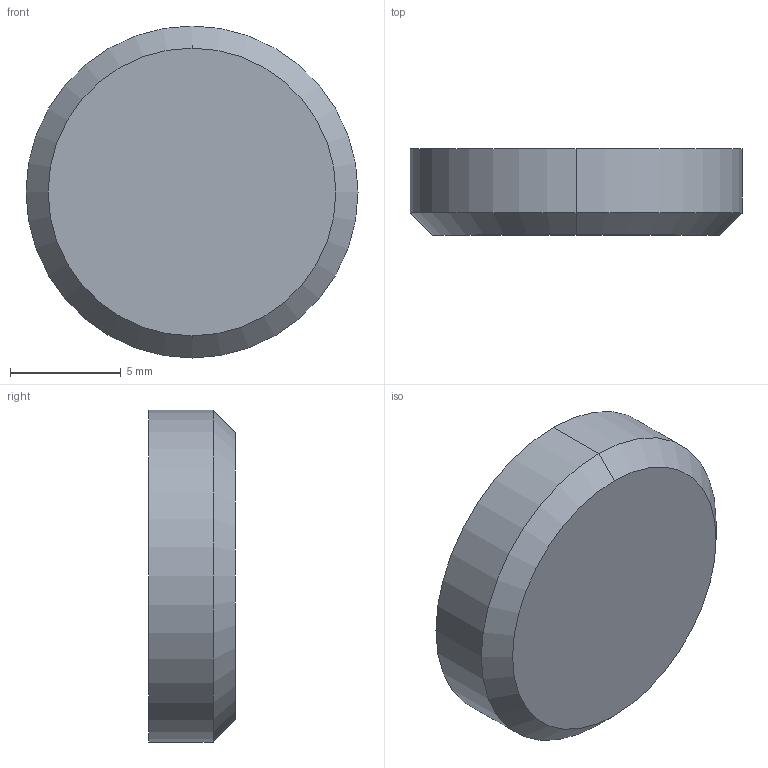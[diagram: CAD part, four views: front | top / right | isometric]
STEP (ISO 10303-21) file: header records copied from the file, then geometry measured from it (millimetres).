
FILE_DESCRIPTION (( 'STEP AP203' ), '1' );
FILE_NAME ('LockingFoot.STEP', '2025-03-11T00:33:59', ( '' ), ( '' ), 'SwSTEP 2.0', 'SolidWorks 2024', '' );
FILE_SCHEMA (( 'CONFIG_CONTROL_DESIGN' ));
Length unit declared in the file: millimetre
Products named in the file (1): LockingFoot
Bounding box: 15 x 3.9 x 15 mm (x, y, z)
Volume: 639.5 mm3; surface area: 530.9 mm2
Topology: 1 solids, 1 shells, 9 faces, 16 edges, 10 vertices
Faces by surface type: cylinder 4, plane 3, cone 2
Entity records: 299 total; most frequent: DIRECTION 46, CARTESIAN_POINT 36, ORIENTED_EDGE 32, AXIS2_PLACEMENT_3D 20, EDGE_CURVE 16, VERTEX_POINT 10, CIRCLE 10, EDGE_LOOP 10
